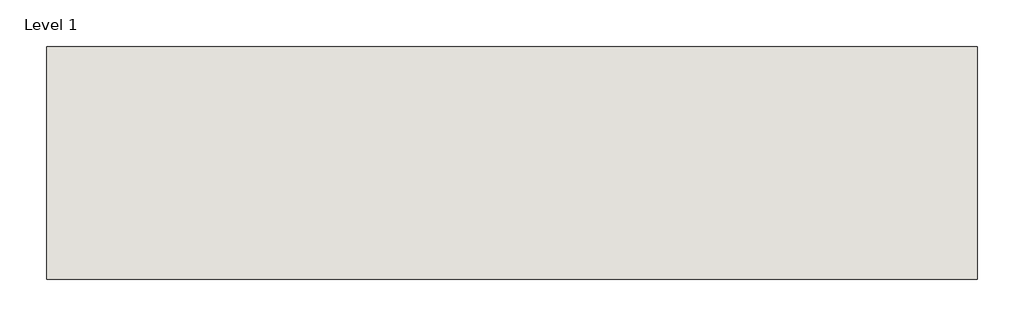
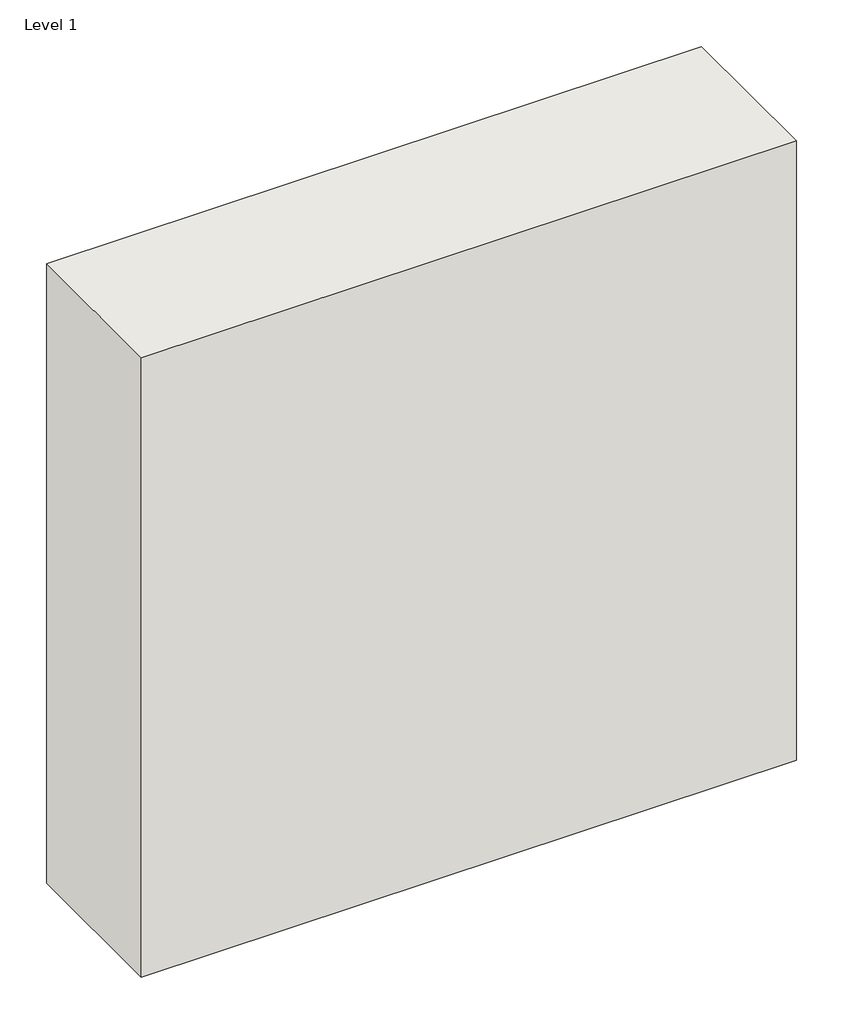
# One storey: 1 wall.
"""IFC4 building model written with IfcOpenShell, lengths in millimetres."""

from ifc_helpers import new_model, si_unit, origin, origin_with_axes, place, context, project, spatial, polyline, outline, extrude, element, save

model = new_model("IFC4")

# Units and contexts
model_context = context("Model", 3, world=origin())
ifc_project = project(units=[si_unit("LENGTHUNIT", "METRE", prefix="MILLI")], contexts=[model_context])

# Site, building, storey
site = spatial("IfcSite", under=ifc_project)
building = spatial("IfcBuilding", under=site)
storey = spatial("IfcBuildingStorey", under=building, Name="Level 1", Elevation=0.0)

# Wall
placement = place(None, origin())
element("IfcWall", 1, ObjectType="PRECERAM - Tijolo Térmico 40x19x25 - PRO25", at=placement, inside=storey, context=model_context, shape_type="SweptSolid", body=[
    extrude(outline(polyline([(1010.0, -65.0), (10.0, -65.0), (10.0, 185.0), (1010.0, 185.0), (1010.0, -65.0)])), origin_with_axes(), (0.0, 0.0, 1.0), 1000.0),
])

save(model, "model.ifc")
